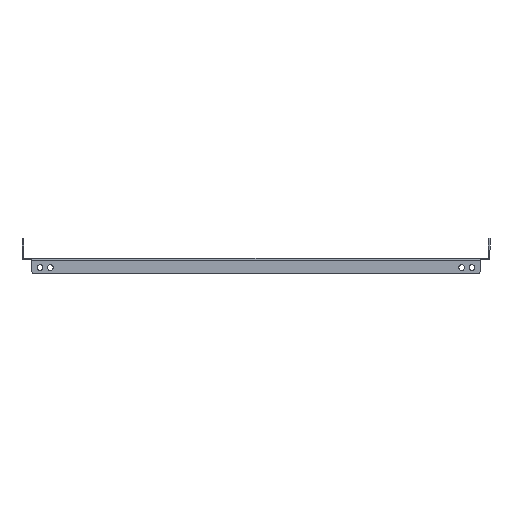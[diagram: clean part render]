
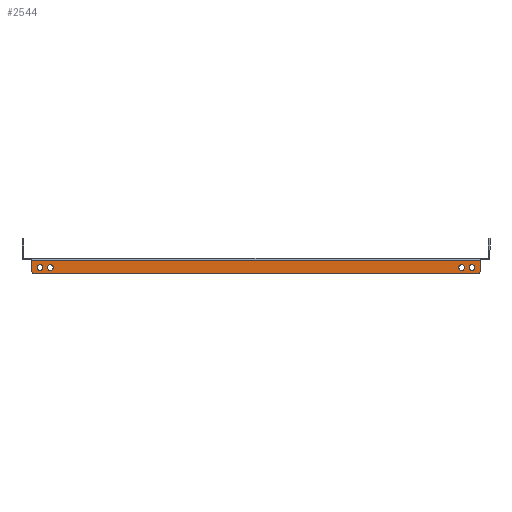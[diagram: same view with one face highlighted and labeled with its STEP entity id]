
A CAD part, left-side view. The second image highlights one B-rep face of the part: STEP entity #2544.
In plain terms, the highlighted planar face has unit normal (-1, 0, 0).
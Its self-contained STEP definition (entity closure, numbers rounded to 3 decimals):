
#1 = CARTESIAN_POINT ( 'NONE',  ( -250., 269.5, -17. ) ) ;
#40 = CARTESIAN_POINT ( 'NONE',  ( -250., 269.5, -14. ) ) ;
#60 = CIRCLE ( 'NONE', #897, 3. ) ;
#90 = VERTEX_POINT ( 'NONE', #1 ) ;
#94 = LINE ( 'NONE', #4064, #3284 ) ;
#165 = CARTESIAN_POINT ( 'NONE',  ( -250., -262.5, -13. ) ) ;
#202 = ORIENTED_EDGE ( 'NONE', *, *, #1435, .F. ) ;
#212 = AXIS2_PLACEMENT_3D ( 'NONE', #1607, #2881, #4202 ) ;
#234 = DIRECTION ( 'NONE',  ( 0., 0., 1. ) ) ;
#237 = VERTEX_POINT ( 'NONE', #820 ) ;
#258 = VECTOR ( 'NONE', #2629, 1000. ) ;
#268 = VERTEX_POINT ( 'NONE', #3576 ) ;
#372 = ORIENTED_EDGE ( 'NONE', *, *, #983, .T. ) ;
#407 = CIRCLE ( 'NONE', #3500, 3. ) ;
#428 = CIRCLE ( 'NONE', #4209, 3.5 ) ;
#474 = VERTEX_POINT ( 'NONE', #4049 ) ;
#495 = DIRECTION ( 'NONE',  ( -1., 0., 0. ) ) ;
#517 = CARTESIAN_POINT ( 'NONE',  ( -250., 262.5, -9.5 ) ) ;
#529 = DIRECTION ( 'NONE',  ( -1., 0., 0. ) ) ;
#600 = FACE_BOUND ( 'NONE', #3632, .T. ) ;
#611 = VERTEX_POINT ( 'NONE', #165 ) ;
#643 = CARTESIAN_POINT ( 'NONE',  ( -250., 262.5, -9.5 ) ) ;
#683 = CARTESIAN_POINT ( 'NONE',  ( -250., 272.5, -17. ) ) ;
#737 = ORIENTED_EDGE ( 'NONE', *, *, #907, .T. ) ;
#820 = CARTESIAN_POINT ( 'NONE',  ( -250., -269.5, -17. ) ) ;
#827 = EDGE_CURVE ( 'NONE', #3028, #1371, #2992, .T. ) ;
#868 = DIRECTION ( 'NONE',  ( -1., 0., 0. ) ) ;
#894 = EDGE_LOOP ( 'NONE', ( #202, #372, #2394, #737, #3951, #3270 ) ) ;
#897 = AXIS2_PLACEMENT_3D ( 'NONE', #40, #3620, #1610 ) ;
#907 = EDGE_CURVE ( 'NONE', #3028, #2221, #94, .T. ) ;
#928 = AXIS2_PLACEMENT_3D ( 'NONE', #1235, #3598, #3262 ) ;
#973 = DIRECTION ( 'NONE',  ( 0., 1., 0. ) ) ;
#983 = EDGE_CURVE ( 'NONE', #237, #1371, #407, .T. ) ;
#1051 = CIRCLE ( 'NONE', #928, 3.5 ) ;
#1076 = DIRECTION ( 'NONE',  ( 0., 1., 0. ) ) ;
#1128 = CARTESIAN_POINT ( 'NONE',  ( -250., -262.5, -9.5 ) ) ;
#1148 = CARTESIAN_POINT ( 'NONE',  ( -250., 272.5, 0. ) ) ;
#1178 = EDGE_CURVE ( 'NONE', #474, #90, #60, .T. ) ;
#1235 = CARTESIAN_POINT ( 'NONE',  ( -250., -250., -9.5 ) ) ;
#1277 = CARTESIAN_POINT ( 'NONE',  ( -250., -272.5, -17. ) ) ;
#1290 = VERTEX_POINT ( 'NONE', #3752 ) ;
#1297 = DIRECTION ( 'NONE',  ( 0., 0., -1. ) ) ;
#1371 = VERTEX_POINT ( 'NONE', #2714 ) ;
#1382 = LINE ( 'NONE', #683, #2244 ) ;
#1399 = CIRCLE ( 'NONE', #4270, 3.5 ) ;
#1431 = CARTESIAN_POINT ( 'NONE',  ( -250., 272.5, -0.6 ) ) ;
#1435 = EDGE_CURVE ( 'NONE', #237, #90, #1382, .T. ) ;
#1462 = CIRCLE ( 'NONE', #2603, 3.5 ) ;
#1529 = VERTEX_POINT ( 'NONE', #2458 ) ;
#1542 = EDGE_LOOP ( 'NONE', ( #2623, #3798 ) ) ;
#1607 = CARTESIAN_POINT ( 'NONE',  ( -250., 272.5, 0. ) ) ;
#1610 = DIRECTION ( 'NONE',  ( 0., 0., 1. ) ) ;
#1680 = AXIS2_PLACEMENT_3D ( 'NONE', #2736, #3745, #3371 ) ;
#1706 = DIRECTION ( 'NONE',  ( 0., 0., 1. ) ) ;
#1714 = CARTESIAN_POINT ( 'NONE',  ( -250., -262.5, -9.5 ) ) ;
#1795 = ORIENTED_EDGE ( 'NONE', *, *, #1935, .F. ) ;
#1861 = DIRECTION ( 'NONE',  ( -1., 0., 0. ) ) ;
#1880 = PLANE ( 'NONE',  #212 ) ;
#1887 = ORIENTED_EDGE ( 'NONE', *, *, #3896, .F. ) ;
#1935 = EDGE_CURVE ( 'NONE', #4268, #268, #1462, .T. ) ;
#1943 = FACE_OUTER_BOUND ( 'NONE', #894, .T. ) ;
#2013 = ORIENTED_EDGE ( 'NONE', *, *, #3328, .F. ) ;
#2046 = VERTEX_POINT ( 'NONE', #3663 ) ;
#2069 = DIRECTION ( 'NONE',  ( -1., 0., 0. ) ) ;
#2130 = CARTESIAN_POINT ( 'NONE',  ( -250., -262.5, -6. ) ) ;
#2139 = EDGE_LOOP ( 'NONE', ( #3622, #1887 ) ) ;
#2221 = VERTEX_POINT ( 'NONE', #1431 ) ;
#2235 = CARTESIAN_POINT ( 'NONE',  ( -250., -272.5, -0.6 ) ) ;
#2244 = VECTOR ( 'NONE', #973, 1000. ) ;
#2283 = FACE_BOUND ( 'NONE', #2139, .T. ) ;
#2297 = DIRECTION ( 'NONE',  ( -1., 0., 0. ) ) ;
#2394 = ORIENTED_EDGE ( 'NONE', *, *, #827, .F. ) ;
#2396 = AXIS2_PLACEMENT_3D ( 'NONE', #517, #868, #2934 ) ;
#2397 = EDGE_CURVE ( 'NONE', #3956, #2046, #1399, .T. ) ;
#2458 = CARTESIAN_POINT ( 'NONE',  ( -250., -250., -6. ) ) ;
#2544 = ADVANCED_FACE ( 'NONE', ( #2283, #3617, #600, #2965, #1943 ), #1880, .T. ) ;
#2568 = ORIENTED_EDGE ( 'NONE', *, *, #4021, .F. ) ;
#2603 = AXIS2_PLACEMENT_3D ( 'NONE', #3804, #2069, #1706 ) ;
#2623 = ORIENTED_EDGE ( 'NONE', *, *, #2901, .F. ) ;
#2629 = DIRECTION ( 'NONE',  ( 0., 0., -1. ) ) ;
#2714 = CARTESIAN_POINT ( 'NONE',  ( -250., -272.5, -14. ) ) ;
#2736 = CARTESIAN_POINT ( 'NONE',  ( -250., -250., -9.5 ) ) ;
#2833 = AXIS2_PLACEMENT_3D ( 'NONE', #1128, #495, #4162 ) ;
#2881 = DIRECTION ( 'NONE',  ( -1., 0., 0. ) ) ;
#2890 = CIRCLE ( 'NONE', #2396, 3.5 ) ;
#2901 = EDGE_CURVE ( 'NONE', #2046, #3956, #2890, .T. ) ;
#2934 = DIRECTION ( 'NONE',  ( 0., 0., 1. ) ) ;
#2965 = FACE_BOUND ( 'NONE', #1542, .T. ) ;
#2967 = CIRCLE ( 'NONE', #2833, 3.5 ) ;
#2992 = LINE ( 'NONE', #1277, #258 ) ;
#3028 = VERTEX_POINT ( 'NONE', #2235 ) ;
#3094 = EDGE_CURVE ( 'NONE', #3859, #611, #4074, .T. ) ;
#3108 = DIRECTION ( 'NONE',  ( 0., 0., 1. ) ) ;
#3119 = CARTESIAN_POINT ( 'NONE',  ( -250., -269.5, -14. ) ) ;
#3140 = DIRECTION ( 'NONE',  ( -1., 0., 0. ) ) ;
#3155 = DIRECTION ( 'NONE',  ( 0., 0., 1. ) ) ;
#3237 = CARTESIAN_POINT ( 'NONE',  ( -250., 250., -9.5 ) ) ;
#3262 = DIRECTION ( 'NONE',  ( 0., 0., -1. ) ) ;
#3270 = ORIENTED_EDGE ( 'NONE', *, *, #1178, .T. ) ;
#3284 = VECTOR ( 'NONE', #1076, 1000. ) ;
#3328 = EDGE_CURVE ( 'NONE', #268, #4268, #428, .T. ) ;
#3371 = DIRECTION ( 'NONE',  ( 0., 0., -1. ) ) ;
#3421 = ORIENTED_EDGE ( 'NONE', *, *, #4174, .F. ) ;
#3500 = AXIS2_PLACEMENT_3D ( 'NONE', #3119, #3140, #234 ) ;
#3533 = LINE ( 'NONE', #1148, #3734 ) ;
#3576 = CARTESIAN_POINT ( 'NONE',  ( -250., 250., -13. ) ) ;
#3598 = DIRECTION ( 'NONE',  ( -1., 0., 0. ) ) ;
#3617 = FACE_BOUND ( 'NONE', #4313, .T. ) ;
#3620 = DIRECTION ( 'NONE',  ( -1., 0., 0. ) ) ;
#3622 = ORIENTED_EDGE ( 'NONE', *, *, #3094, .F. ) ;
#3632 = EDGE_LOOP ( 'NONE', ( #1795, #2013 ) ) ;
#3663 = CARTESIAN_POINT ( 'NONE',  ( -250., 262.5, -6. ) ) ;
#3666 = CIRCLE ( 'NONE', #1680, 3.5 ) ;
#3734 = VECTOR ( 'NONE', #3108, 1000. ) ;
#3745 = DIRECTION ( 'NONE',  ( -1., 0., 0. ) ) ;
#3752 = CARTESIAN_POINT ( 'NONE',  ( -250., -250., -13. ) ) ;
#3764 = CARTESIAN_POINT ( 'NONE',  ( -250., 250., -6. ) ) ;
#3798 = ORIENTED_EDGE ( 'NONE', *, *, #2397, .F. ) ;
#3804 = CARTESIAN_POINT ( 'NONE',  ( -250., 250., -9.5 ) ) ;
#3859 = VERTEX_POINT ( 'NONE', #2130 ) ;
#3864 = AXIS2_PLACEMENT_3D ( 'NONE', #1714, #2297, #1297 ) ;
#3896 = EDGE_CURVE ( 'NONE', #611, #3859, #2967, .T. ) ;
#3910 = EDGE_CURVE ( 'NONE', #474, #2221, #3533, .T. ) ;
#3951 = ORIENTED_EDGE ( 'NONE', *, *, #3910, .F. ) ;
#3956 = VERTEX_POINT ( 'NONE', #4115 ) ;
#4021 = EDGE_CURVE ( 'NONE', #1290, #1529, #1051, .T. ) ;
#4049 = CARTESIAN_POINT ( 'NONE',  ( -250., 272.5, -14. ) ) ;
#4064 = CARTESIAN_POINT ( 'NONE',  ( -250., 272.5, -0.6 ) ) ;
#4074 = CIRCLE ( 'NONE', #3864, 3.5 ) ;
#4115 = CARTESIAN_POINT ( 'NONE',  ( -250., 262.5, -13. ) ) ;
#4162 = DIRECTION ( 'NONE',  ( 0., 0., -1. ) ) ;
#4174 = EDGE_CURVE ( 'NONE', #1529, #1290, #3666, .T. ) ;
#4202 = DIRECTION ( 'NONE',  ( 0., 0., 1. ) ) ;
#4209 = AXIS2_PLACEMENT_3D ( 'NONE', #3237, #529, #4236 ) ;
#4236 = DIRECTION ( 'NONE',  ( 0., 0., 1. ) ) ;
#4268 = VERTEX_POINT ( 'NONE', #3764 ) ;
#4270 = AXIS2_PLACEMENT_3D ( 'NONE', #643, #1861, #3155 ) ;
#4313 = EDGE_LOOP ( 'NONE', ( #3421, #2568 ) ) ;
